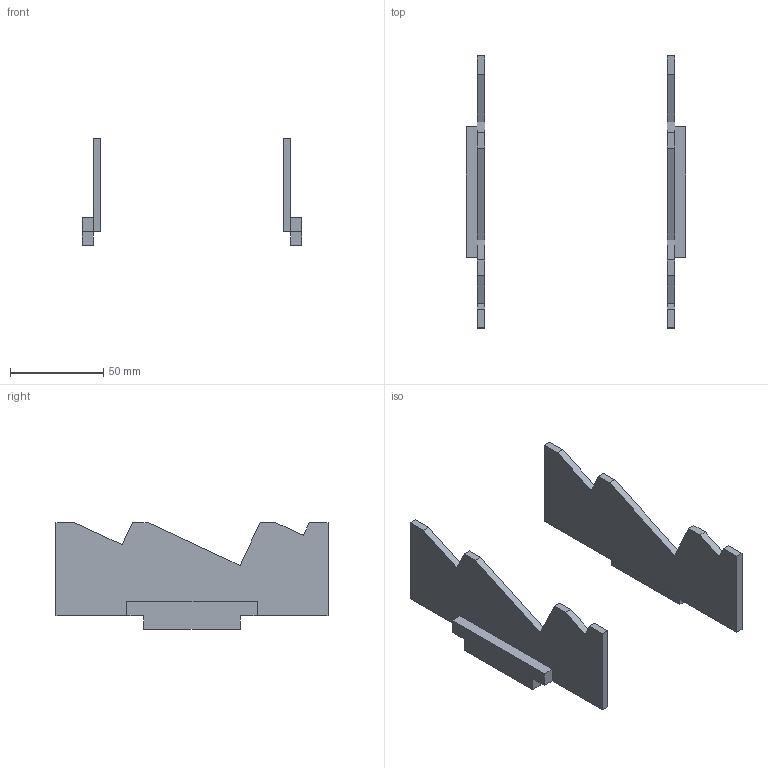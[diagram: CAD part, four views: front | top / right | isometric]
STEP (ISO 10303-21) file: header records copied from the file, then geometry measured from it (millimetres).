
FILE_DESCRIPTION (( 'STEP AP203' ), '1' );
FILE_NAME ('mvcl150a25.STEP', '2023-04-10T05:39:51', ( '' ), ( '' ), 'SwSTEP 2.0', 'SolidWorks 2021', '' );
FILE_SCHEMA (( 'CONFIG_CONTROL_DESIGN' ));
Length unit declared in the file: millimetre
Products named in the file (3): mvcl150a25; mvcl150a25_02_蹬怮椔; mvcl150a25_01_蹬怮椔
Assembly tree (2 placements, depth 2):
  mvcl150a25
    mvcl150a25_01_蹬怮椔
    mvcl150a25_02_蹬怮椔
Bounding box: 118 x 146 x 57.3 mm (x, y, z)
Volume: 61905.1 mm3; surface area: 32425.5 mm2
Topology: 2 solids, 2 shells, 46 faces, 126 edges, 84 vertices
Faces by surface type: plane 46
Entity records: 1735 total; most frequent: CARTESIAN_POINT 261, ORIENTED_EDGE 252, DIRECTION 228, EDGE_CURVE 126, LINE 126, VECTOR 126, VERTEX_POINT 84, AXIS2_PLACEMENT_3D 51
